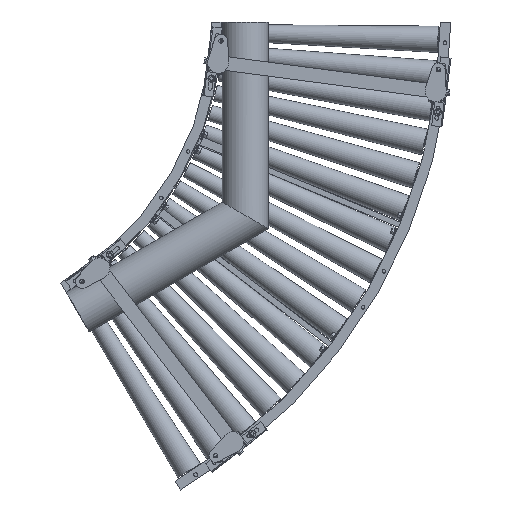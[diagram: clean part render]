
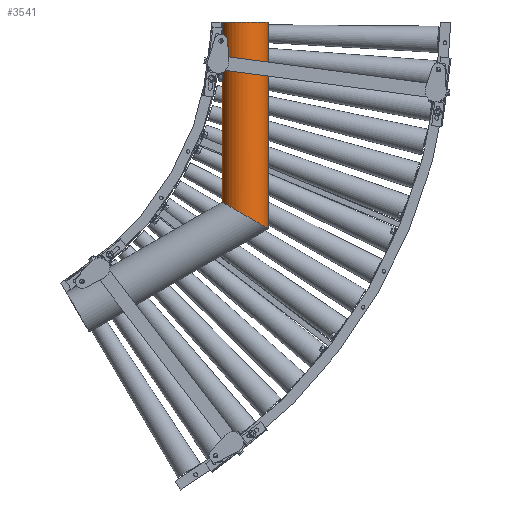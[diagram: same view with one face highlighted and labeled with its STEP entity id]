
A CAD part, front view. The second image highlights one B-rep face of the part: STEP entity #3541.
In plain terms, the highlighted cylindrical face has radius 67.024 mm (diameter 134.048 mm), a partial arc.
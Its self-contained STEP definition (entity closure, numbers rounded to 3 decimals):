
#3541=ADVANCED_FACE('',(#25721),#25720,.T.);
#25720=CYLINDRICAL_SURFACE('',#37776,67.024);
#25721=FACE_OUTER_BOUND('',#37777,.T.);
#37773=CARTESIAN_POINT('',(967.,-156.676,0.));
#37774=DIRECTION('',(0.,0.,1.));
#37775=DIRECTION('',(1.,0.,0.));
#37776=AXIS2_PLACEMENT_3D('',#37773,#37774,#37775);
#37777=EDGE_LOOP('',(#48644,#48645,#48646,#48647));
#48644=ORIENTED_EDGE('',*,*,#54234,.F.);
#48645=ORIENTED_EDGE('',*,*,#54218,.F.);
#48646=ORIENTED_EDGE('',*,*,#54230,.T.);
#48647=ORIENTED_EDGE('',*,*,#54226,.F.);
#54218=EDGE_CURVE('',#89927,#89928,#89929,.T.);
#54226=EDGE_CURVE('',#89981,#89955,#89982,.T.);
#54230=EDGE_CURVE('',#89927,#89955,#90007,.T.);
#54234=EDGE_CURVE('',#89928,#89981,#90031,.T.);
#89927=VERTEX_POINT('',#114664);
#89928=VERTEX_POINT('',#114665);
#89929=CIRCLE('',#114669,67.024);
#89955=VERTEX_POINT('',#114681);
#89981=VERTEX_POINT('',#114695);
#89982=(BOUNDED_CURVE() B_SPLINE_CURVE(2,(#114696,#114697,#114698,#114699,#114700),.UNSPECIFIED.,.F.,.F.) B_SPLINE_CURVE_WITH_KNOTS((3,2,3),(0.147,1.571,2.994),.UNSPECIFIED.) CURVE() GEOMETRIC_REPRESENTATION_ITEM() RATIONAL_B_SPLINE_CURVE((1.,0.757,1.,0.757,1.)) REPRESENTATION_ITEM('') );
#90007=LINE('',#114711,#114712);
#90031=LINE('',#114723,#114724);
#114664=CARTESIAN_POINT('',(900.7,-166.5,0.));
#114665=CARTESIAN_POINT('',(1033.3,-166.5,0.));
#114666=CARTESIAN_POINT('',(967.,-156.676,0.));
#114667=DIRECTION('',(0.,0.,1.));
#114668=DIRECTION('',(-1.,0.,0.));
#114669=AXIS2_PLACEMENT_3D('',#114666,#114667,#114668);
#114681=CARTESIAN_POINT('',(900.7,-166.5,-520.019));
#114695=CARTESIAN_POINT('',(1033.3,-166.5,-596.576));
#114696=CARTESIAN_POINT('',(1033.3,-166.5,-596.576));
#114697=CARTESIAN_POINT('',(1024.825,-223.7,-591.683));
#114698=CARTESIAN_POINT('',(967.,-223.7,-558.298));
#114699=CARTESIAN_POINT('',(909.175,-223.7,-524.913));
#114700=CARTESIAN_POINT('',(900.7,-166.5,-520.019));
#114711=CARTESIAN_POINT('',(900.7,-166.5,0.));
#114712=VECTOR('',#114713,520.019);
#114713=DIRECTION('',(0.,0.,-1.));
#114723=CARTESIAN_POINT('',(1033.3,-166.5,0.));
#114724=VECTOR('',#114725,596.576);
#114725=DIRECTION('',(0.,0.,-1.));
